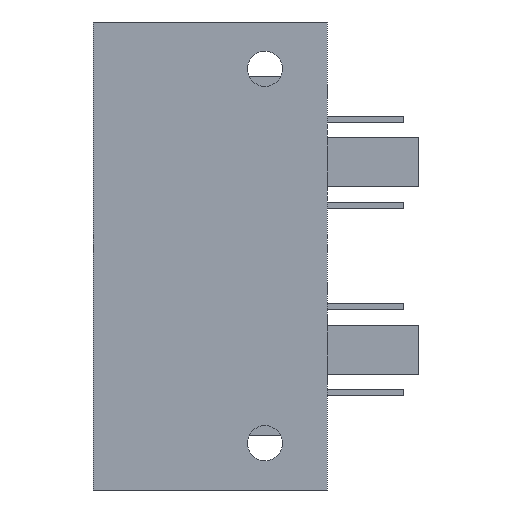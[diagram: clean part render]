
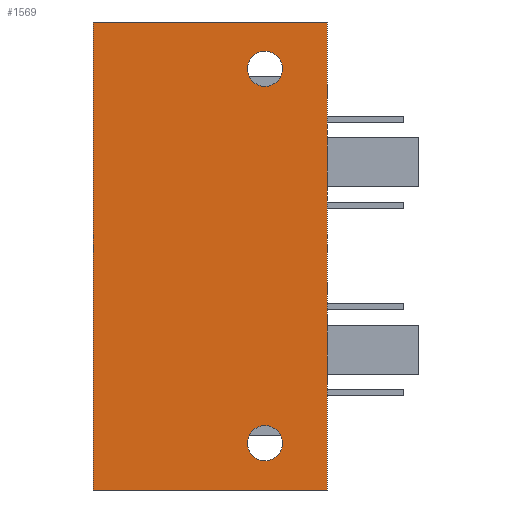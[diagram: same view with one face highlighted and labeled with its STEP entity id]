
A CAD part, left-side view. The second image highlights one B-rep face of the part: STEP entity #1569.
In plain terms, the highlighted planar face has unit normal (-1, 0, 0).
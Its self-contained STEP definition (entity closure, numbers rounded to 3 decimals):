
#1295 = EDGE_CURVE ( 'NONE', #10812, #10662, #4952, .T. ) ;
#1305 = EDGE_CURVE ( 'NONE', #10781, #10697, #4979, .T. ) ;
#1326 = EDGE_CURVE ( 'NONE', #10511, #10511, #7379, .T. ) ;
#1329 = EDGE_CURVE ( 'NONE', #10517, #10517, #7382, .T. ) ;
#1334 = EDGE_CURVE ( 'NONE', #10781, #10812, #7385, .T. ) ;
#1335 = EDGE_CURVE ( 'NONE', #10662, #10697, #7372, .T. ) ;
#1569 = ADVANCED_FACE ( 'NONE', ( #9516, #9522, #9526 ), #9807, .T. ) ;
#4952 = LINE ( 'NONE', #6936, #4962 ) ;
#4962 = VECTOR ( 'NONE', #6937, 1000. ) ;
#4979 = LINE ( 'NONE', #6960, #4980 ) ;
#4980 = VECTOR ( 'NONE', #6961, 1000. ) ;
#5571 = AXIS2_PLACEMENT_3D ( 'NONE', #7009, #7016, #7017 ) ;
#5574 = AXIS2_PLACEMENT_3D ( 'NONE', #7018, #7025, #7026 ) ;
#5947 = AXIS2_PLACEMENT_3D ( 'NONE', #9808, #9809, #9810 ) ;
#6936 = CARTESIAN_POINT ( 'NONE',  ( -10., 15., 0. ) ) ;
#6937 = DIRECTION ( 'NONE',  ( 0., 0., -1. ) ) ;
#6960 = CARTESIAN_POINT ( 'NONE',  ( -10., -15., 0. ) ) ;
#6961 = DIRECTION ( 'NONE',  ( 0., 0., -1. ) ) ;
#7009 = CARTESIAN_POINT ( 'NONE',  ( -10., -7., -54. ) ) ;
#7016 = DIRECTION ( 'NONE',  ( 1., 0., 0. ) ) ;
#7017 = DIRECTION ( 'NONE',  ( 0., 0., -1. ) ) ;
#7018 = CARTESIAN_POINT ( 'NONE',  ( -10., -7., -6. ) ) ;
#7025 = DIRECTION ( 'NONE',  ( 1., 0., 0. ) ) ;
#7026 = DIRECTION ( 'NONE',  ( 0., 0., -1. ) ) ;
#7038 = CARTESIAN_POINT ( 'NONE',  ( -10., -15., 0. ) ) ;
#7039 = DIRECTION ( 'NONE',  ( 0., 1., 0. ) ) ;
#7041 = CARTESIAN_POINT ( 'NONE',  ( -10., -15., -60. ) ) ;
#7042 = DIRECTION ( 'NONE',  ( 0., -1., 0. ) ) ;
#7372 = LINE ( 'NONE', #7041, #7389 ) ;
#7379 = CIRCLE ( 'NONE', #5571, 2.25 ) ;
#7382 = CIRCLE ( 'NONE', #5574, 2.25 ) ;
#7385 = LINE ( 'NONE', #7038, #7387 ) ;
#7387 = VECTOR ( 'NONE', #7039, 1000. ) ;
#7389 = VECTOR ( 'NONE', #7042, 1000. ) ;
#9516 = FACE_OUTER_BOUND ( 'NONE', #11978, .T. ) ;
#9522 = FACE_BOUND ( 'NONE', #11970, .T. ) ;
#9526 = FACE_BOUND ( 'NONE', #11975, .T. ) ;
#9807 = PLANE ( 'NONE',  #5947 ) ;
#9808 = CARTESIAN_POINT ( 'NONE',  ( -10., 15., 0. ) ) ;
#9809 = DIRECTION ( 'NONE',  ( -1., 0., 0. ) ) ;
#9810 = DIRECTION ( 'NONE',  ( 0., 0.707, 0.707 ) ) ;
#9947 = CARTESIAN_POINT ( 'NONE',  ( -10., 15., -60. ) ) ;
#9981 = CARTESIAN_POINT ( 'NONE',  ( -10., -15., -60. ) ) ;
#10065 = CARTESIAN_POINT ( 'NONE',  ( -10., -15., 0. ) ) ;
#10096 = CARTESIAN_POINT ( 'NONE',  ( -10., 15., 0. ) ) ;
#10511 = VERTEX_POINT ( 'NONE', #10512 ) ;
#10512 = CARTESIAN_POINT ( 'NONE',  ( -10., -7., -56.25 ) ) ;
#10517 = VERTEX_POINT ( 'NONE', #10518 ) ;
#10518 = CARTESIAN_POINT ( 'NONE',  ( -10., -7., -8.25 ) ) ;
#10662 = VERTEX_POINT ( 'NONE', #9947 ) ;
#10697 = VERTEX_POINT ( 'NONE', #9981 ) ;
#10781 = VERTEX_POINT ( 'NONE', #10065 ) ;
#10812 = VERTEX_POINT ( 'NONE', #10096 ) ;
#11571 = ORIENTED_EDGE ( 'NONE', *, *, #1335, .T. ) ;
#11572 = ORIENTED_EDGE ( 'NONE', *, *, #1305, .F. ) ;
#11573 = ORIENTED_EDGE ( 'NONE', *, *, #1334, .T. ) ;
#11574 = ORIENTED_EDGE ( 'NONE', *, *, #1295, .T. ) ;
#11575 = ORIENTED_EDGE ( 'NONE', *, *, #1326, .T. ) ;
#11576 = ORIENTED_EDGE ( 'NONE', *, *, #1329, .T. ) ;
#11970 = EDGE_LOOP ( 'NONE', ( #11575 ) ) ;
#11975 = EDGE_LOOP ( 'NONE', ( #11576 ) ) ;
#11978 = EDGE_LOOP ( 'NONE', ( #11571, #11572, #11573, #11574 ) ) ;
